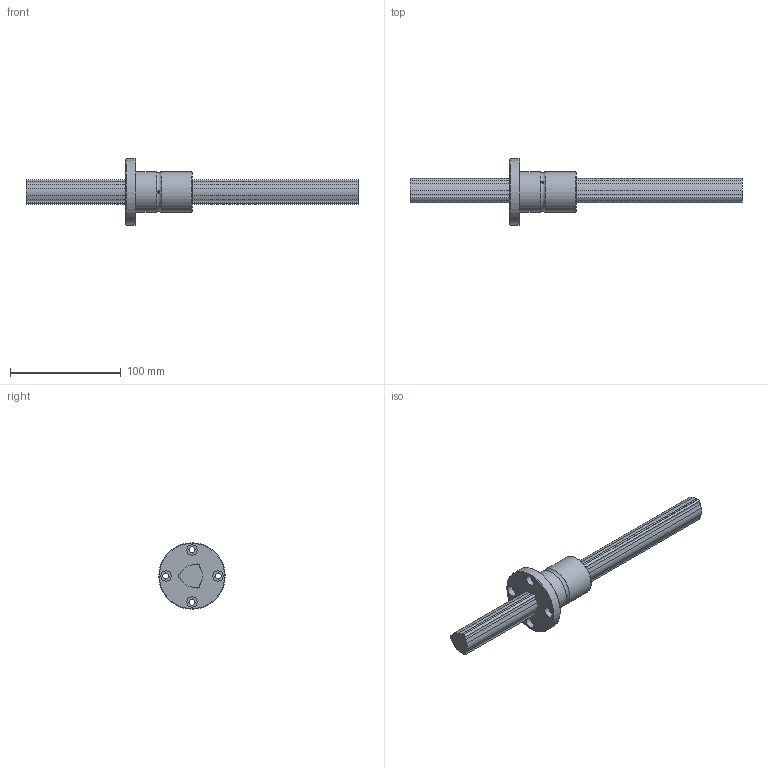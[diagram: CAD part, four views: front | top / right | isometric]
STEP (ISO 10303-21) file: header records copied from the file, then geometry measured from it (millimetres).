
FILE_DESCRIPTION(/* description */ ('STEP AP214'),/* implementation_level */ '2;1');
FILE_NAME(/* name */ 'LBF25+300L(300900)',/* time_stamp */ '2024-09-04T13:00:48+02:00',/* author */ ('License CC BY-ND 4.0'),/* organization */ ('CADENAS'),/* preprocessor_version */ 'ST-DEVELOPER v19.3',/* originating_system */ 'PARTsolutions',/* authorisation */ ' ');
FILE_SCHEMA (('AUTOMOTIVE_DESIGN {1 0 10303 214 3 1 1}'));
Length unit declared in the file: millimetre
Products named in the file (3): LBF25+300L(300900); LBF251300 Spline Shaft; LBF25 Nut
Assembly tree (2 placements, depth 2):
  LBF25+300L(300900)
    LBF251300 Spline Shaft
    LBF25 Nut
Bounding box: 300 x 60 x 60 mm (x, y, z)
Volume: 158276.4 mm3; surface area: 39693.9 mm2
Topology: 2 solids, 2 shells, 66 faces, 165 edges, 111 vertices
Faces by surface type: cylinder 38, plane 24, torus 2, cone 2
Full cylindrical faces by diameter (mm): 2 x3, 5.5 x4, 9.5 x4, 37 x2, 60 x1
Entity records: 1966 total; most frequent: DIRECTION 350, CARTESIAN_POINT 341, ORIENTED_EDGE 278, AXIS2_PLACEMENT_3D 145, EDGE_CURVE 139, VERTEX_POINT 103, EDGE_LOOP 102, FACE_BOUND 102
